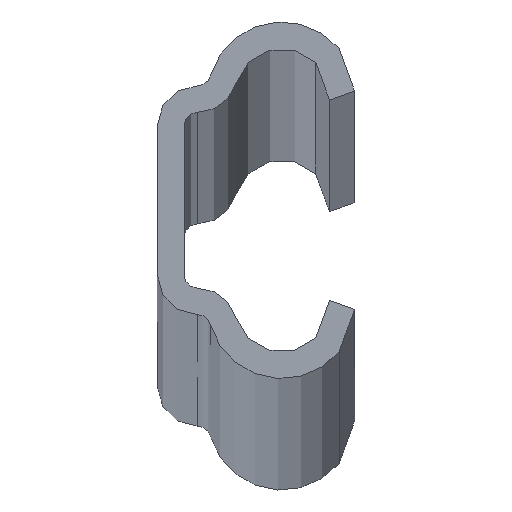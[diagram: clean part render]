
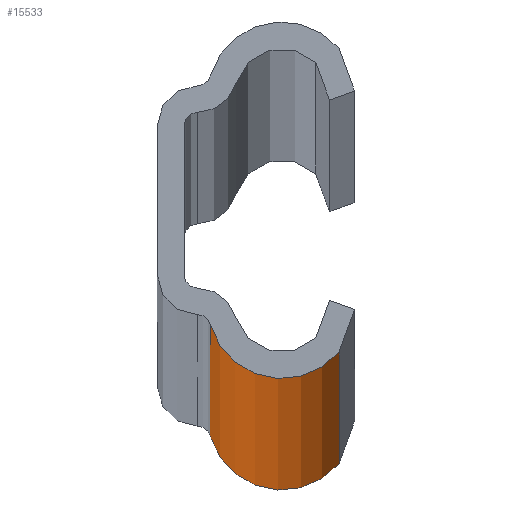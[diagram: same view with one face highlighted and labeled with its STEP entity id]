
A CAD part, top view. The second image highlights one B-rep face of the part: STEP entity #15533.
In plain terms, the highlighted cylindrical face has radius 7 mm (diameter 14 mm), a partial arc.
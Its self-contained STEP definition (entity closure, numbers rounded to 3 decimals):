
#1912 = EDGE_CURVE ( 'NONE', #35281, #21141, #20928, .T. ) ;
#2498 = VERTEX_POINT ( 'NONE', #7044 ) ;
#2892 = DIRECTION ( 'NONE',  ( 0., 0., 1. ) ) ;
#5703 = CARTESIAN_POINT ( 'NONE',  ( 4.965, -11.659, -6000. ) ) ;
#7044 = CARTESIAN_POINT ( 'NONE',  ( 4.965, -11.659, 0. ) ) ;
#7093 = VECTOR ( 'NONE', #29445, 1000. ) ;
#7408 = EDGE_CURVE ( 'NONE', #2498, #11411, #34181, .T. ) ;
#8205 = EDGE_CURVE ( 'NONE', #21141, #11411, #8528, .T. ) ;
#8528 = LINE ( 'NONE', #23301, #35330 ) ;
#8617 = LINE ( 'NONE', #5703, #7093 ) ;
#8710 = CARTESIAN_POINT ( 'NONE',  ( 11.7, -9.75, 0. ) ) ;
#10804 = EDGE_CURVE ( 'NONE', #35281, #2498, #8617, .T. ) ;
#11411 = VERTEX_POINT ( 'NONE', #27637 ) ;
#11560 = ORIENTED_EDGE ( 'NONE', *, *, #8205, .T. ) ;
#11693 = AXIS2_PLACEMENT_3D ( 'NONE', #31225, #30656, #31036 ) ;
#13339 = CYLINDRICAL_SURFACE ( 'NONE', #11693, 7. ) ;
#14734 = DIRECTION ( 'NONE',  ( 1., 0., 0. ) ) ;
#15533 = ADVANCED_FACE ( 'NONE', ( #18789 ), #13339, .T. ) ;
#16582 = AXIS2_PLACEMENT_3D ( 'NONE', #33223, #36139, #22131 ) ;
#18750 = CARTESIAN_POINT ( 'NONE',  ( 4.965, -11.659, -6000. ) ) ;
#18789 = FACE_OUTER_BOUND ( 'NONE', #21452, .T. ) ;
#19645 = CARTESIAN_POINT ( 'NONE',  ( 17.062, -14.25, -6000. ) ) ;
#20928 = CIRCLE ( 'NONE', #16582, 7. ) ;
#21141 = VERTEX_POINT ( 'NONE', #19645 ) ;
#21452 = EDGE_LOOP ( 'NONE', ( #29996, #27958, #35278, #11560 ) ) ;
#22131 = DIRECTION ( 'NONE',  ( 1., 0., 0. ) ) ;
#22385 = AXIS2_PLACEMENT_3D ( 'NONE', #8710, #2892, #14734 ) ;
#23301 = CARTESIAN_POINT ( 'NONE',  ( 17.062, -14.25, -6000. ) ) ;
#27637 = CARTESIAN_POINT ( 'NONE',  ( 17.062, -14.25, 0. ) ) ;
#27958 = ORIENTED_EDGE ( 'NONE', *, *, #10804, .F. ) ;
#29445 = DIRECTION ( 'NONE',  ( 0., 0., 1. ) ) ;
#29996 = ORIENTED_EDGE ( 'NONE', *, *, #7408, .F. ) ;
#30656 = DIRECTION ( 'NONE',  ( 0., 0., 1. ) ) ;
#31036 = DIRECTION ( 'NONE',  ( 1., 0., 0. ) ) ;
#31225 = CARTESIAN_POINT ( 'NONE',  ( 11.7, -9.75, -6000. ) ) ;
#31871 = DIRECTION ( 'NONE',  ( 0., 0., 1. ) ) ;
#33223 = CARTESIAN_POINT ( 'NONE',  ( 11.7, -9.75, -6000. ) ) ;
#34181 = CIRCLE ( 'NONE', #22385, 7. ) ;
#35278 = ORIENTED_EDGE ( 'NONE', *, *, #1912, .T. ) ;
#35281 = VERTEX_POINT ( 'NONE', #18750 ) ;
#35330 = VECTOR ( 'NONE', #31871, 1000. ) ;
#36139 = DIRECTION ( 'NONE',  ( 0., 0., 1. ) ) ;
